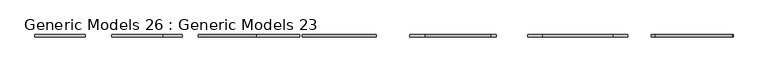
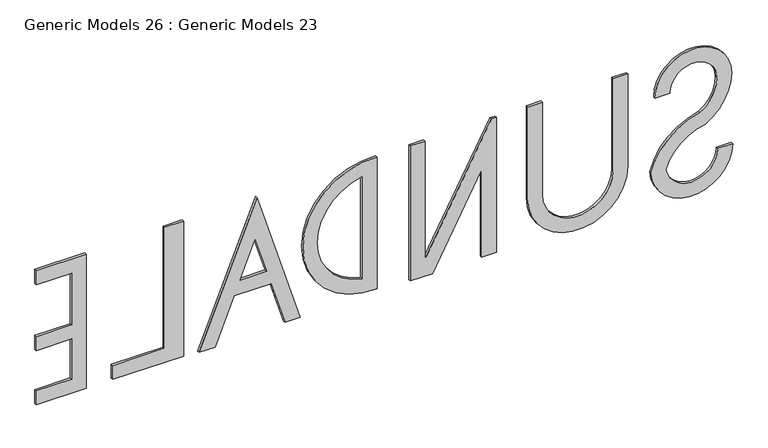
"""IFC4 building model written with IfcOpenShell, lengths in millimetres: proxy geometry, Generic Models 26 : Generic Models 23."""

from ifc_helpers import new_model, si_unit, point, frame, frame_2d, origin, place, context, project, spatial, polyline, circle_curve, trimmed, segment, composite_curve, outline, extrude, source, transform, mapped, element, save


def generic_models_26_generic_models_23_658c4b0b(model_context):
    return source(origin(), model_context, "Body", "SweptSolid", [
        extrude(outline(composite_curve([segment(trimmed(circle_curve(frame_2d((54776.7596684, -48325.3879265)), 1776.3455967), [point((53235.0212741, -47443.0918297))], [point((54776.7596684, -46549.0423298))], False, "CARTESIAN"), True, "CONTINUOUS"), segment(trimmed(circle_curve(frame_2d((54776.7596684, -47849.0423298)), 1300.0), [point((54776.7596684, -46549.0423298))], [point((54776.7596684, -49149.0423298))], False, "CARTESIAN"), True, "CONTINUOUS"), segment(polyline([(54776.7596684, -49149.0423298), (54776.7596684, -48649.0423298)]), True, "CONTINUOUS"), segment(trimmed(circle_curve(frame_2d((54776.7596684, -47849.0423298)), 800.0), [point((54776.7596684, -48649.0423298))], [point((54776.7596684, -47049.0423298))], True, "CARTESIAN"), True, "CONTINUOUS"), segment(trimmed(circle_curve(frame_2d((54776.7596684, -48325.3879265)), 1276.3455967), [point((54776.7596684, -47049.0423298))], [point((53710.4726684, -47623.8965752))], True, "CARTESIAN"), True, "CONTINUOUS"), segment(trimmed(circle_curve(frame_2d((51596.1817007, -47191.7877631)), 2157.9954406), [point((53710.4726684, -47623.8965752))], [point((52121.0540307, -49284.9799088))], False, "CARTESIAN"), True, "CONTINUOUS"), segment(trimmed(circle_curve(frame_2d((52217.184145, -47900.5877441)), 1387.7257166), [point((52121.0540307, -49284.9799088))], [point((52217.184145, -46512.8620274))], False, "CARTESIAN"), True, "CONTINUOUS"), segment(polyline([(52217.184145, -46512.8620274), (52217.184145, -47012.8620274)]), True, "CONTINUOUS"), segment(trimmed(circle_curve(frame_2d((52217.184145, -47900.5877441)), 887.7257166), [point((52217.184145, -47012.8620274))], [point((52079.9392277, -48777.640069))], True, "CARTESIAN"), True, "CONTINUOUS"), segment(trimmed(circle_curve(frame_2d((51596.1817007, -47191.7877631)), 1657.9954406), [point((52079.9392277, -48777.640069))], [point((53235.0212741, -47443.0918297))], True, "CARTESIAN"), True, "CONTINUOUS")], self_intersect=False)), frame((0.0, 12101.4058517, 0.0), z_axis=(0.0, 1.0, 0.0), x_axis=(0.0, 0.0, 1.0)), (0.0, 0.0, 1.0), 80.765187),
        extrude(outline(composite_curve([segment(polyline([(55967.5824887, -52976.5821544), (55967.5824887, -53476.5821544), (52659.1366726, -53476.5821544)]), True, "CONTINUOUS"), segment(trimmed(circle_curve(frame_2d((52659.1366726, -51776.5821544)), 1700.0), [point((52659.1366726, -53476.5821544))], [point((52659.1366726, -50076.5821544))], False, "CARTESIAN"), True, "CONTINUOUS"), segment(polyline([(52659.1366726, -50076.5821544), (55967.5824887, -50076.5821544), (55967.5824887, -50576.5821544), (52659.1366726, -50576.5821544)]), True, "CONTINUOUS"), segment(trimmed(circle_curve(frame_2d((52659.1366726, -51776.5821544)), 1200.0), [point((52659.1366726, -50576.5821544))], [point((52659.1366726, -52976.5821544))], True, "CARTESIAN"), True, "CONTINUOUS"), segment(polyline([(52659.1366726, -52976.5821544), (55967.5824887, -52976.5821544)]), True, "CONTINUOUS")], self_intersect=False)), frame((0.0, 12101.4058517, 0.0), z_axis=(0.0, 1.0, 0.0), x_axis=(0.0, 0.0, 1.0)), (0.0, 0.0, 1.0), 80.765187),
        extrude(outline(polyline([(55967.5824887, -56963.2936382), (55967.5824887, -57463.2936382), (51122.5669182, -57463.2936382), (51122.5669182, -56716.8941205), (54272.238468, -55042.1840508), (51122.5669182, -55042.1840508), (51122.5669182, -54542.1840508), (55969.1366726, -54542.1840508), (55969.1366726, -54706.2122962), (51724.1840583, -56963.2936382), (55967.5824887, -56963.2936382)])), frame((0.0, 12101.4058517, 0.0), z_axis=(0.0, 1.0, 0.0), x_axis=(0.0, 0.0, 1.0)), (0.0, 0.0, 1.0), 80.765187),
        extrude(outline(polyline([(55939.1439191, -62673.1671487), (51066.3759292, -64641.893209), (51066.3759292, -64102.6258377), (52678.6221435, -63451.2360846), (52678.6221435, -62199.1714826), (51122.5669182, -61723.4376581), (51122.5669182, -61200.5917799), (55939.1439191, -62673.1671487)]), holes=[polyline([(53178.6221435, -63249.2229717), (54442.6974053, -62738.5034145), (53178.6221435, -62352.0368233), (53178.6221435, -63249.2229717)])]), frame((0.0, 12101.4058517, 0.0), z_axis=(0.0, 1.0, 0.0), x_axis=(0.0, 0.0, 1.0)), (0.0, 0.0, 1.0), 80.765187),
        extrude(outline(polyline([(51122.5669182, -67571.1412659), (51122.5669182, -65171.1412659), (55967.5824887, -65171.1412659), (55967.5824887, -65821.1412659), (51622.5669182, -65821.1412659), (51622.5669182, -67571.1412659), (51122.5669182, -67571.1412659)])), frame((0.0, 12101.4058517, 0.0), z_axis=(0.0, 1.0, 0.0), x_axis=(0.0, 0.0, 1.0)), (0.0, 0.0, 1.0), 80.765187),
        extrude(outline(polyline([(55934.6773689, -68471.1412659), (55934.6773689, -70171.1412659), (55434.6773689, -70171.1412659), (55434.6773689, -68971.1412659), (53572.5669182, -68971.1412659), (53572.5669182, -70171.1412659), (53072.5669182, -70171.1412659), (53072.5669182, -68971.1412659), (51622.5669182, -68971.1412659), (51622.5669182, -70171.1412659), (51122.5669182, -70171.1412659), (51122.5669182, -68471.1412659), (55934.6773689, -68471.1412659)])), frame((0.0, 12101.4058517, 0.0), z_axis=(0.0, 1.0, 0.0), x_axis=(0.0, 0.0, 1.0)), (0.0, 0.0, 1.0), 80.765187),
        extrude(outline(composite_curve([segment(polyline([(51242.6665698, -58600.5917799), (55962.8204992, -58600.5917799)]), True, "CONTINUOUS"), segment(trimmed(circle_curve(frame_2d((53602.7435345, -58750.5917799)), 2364.8389542), [point((55962.8204992, -58600.5917799))], [point((51242.6665698, -58600.5917799))], False, "CARTESIAN"), True, "CONTINUOUS")], self_intersect=False), holes=[composite_curve([segment(trimmed(circle_curve(frame_2d((53602.7435345, -58750.5917799)), 1864.8389542), [point((51771.0436887, -59100.5917799))], [point((55434.4433803, -59100.5917799))], True, "CARTESIAN"), True, "CONTINUOUS"), segment(polyline([(55434.4433803, -59100.5917799), (51771.0436887, -59100.5917799)]), True, "CONTINUOUS")], self_intersect=False)]), frame((0.0, 12101.4058517, 0.0), z_axis=(0.0, 1.0, 0.0), x_axis=(0.0, 0.0, 1.0)), (0.0, 0.0, 1.0), 80.765187),
    ])


if __name__ == "__main__":
    model = new_model("IFC4")
    model_context = context("Model", 3, world=origin())
    ifc_project = project(units=[si_unit("LENGTHUNIT", "METRE", prefix="MILLI")], contexts=[model_context])
    site = spatial("IfcSite", under=ifc_project)
    building = spatial("IfcBuilding", under=site)
    placement = place(None, origin())
    generic_models_26_generic_models_23_shape = generic_models_26_generic_models_23_658c4b0b(model_context)
    element("IfcBuildingElementProxy", 1, Name="Generic Models 26 : Generic Models 23", ObjectType="Generic Models 26 : Generic Models 23", at=placement, inside=building, context=model_context, shape_type="MappedRepresentation", body=[
        mapped(generic_models_26_generic_models_23_shape, transform((0.0, 0.0, 0.0), x_axis=(1.0, 0.0, 0.0), y_axis=(0.0, 1.0, 0.0), z_axis=(0.0, 0.0, 1.0))),
    ])
    save(model, "model.ifc")
